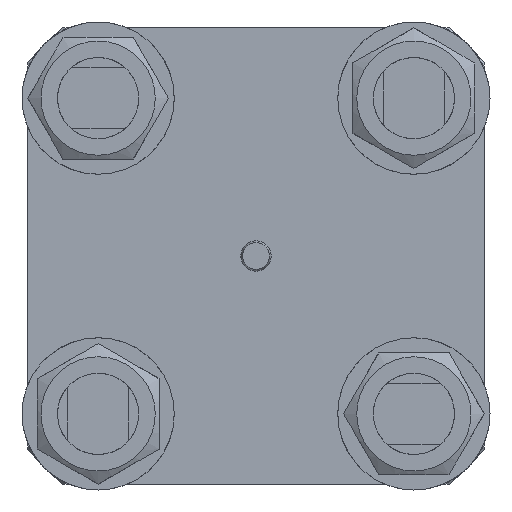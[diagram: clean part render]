
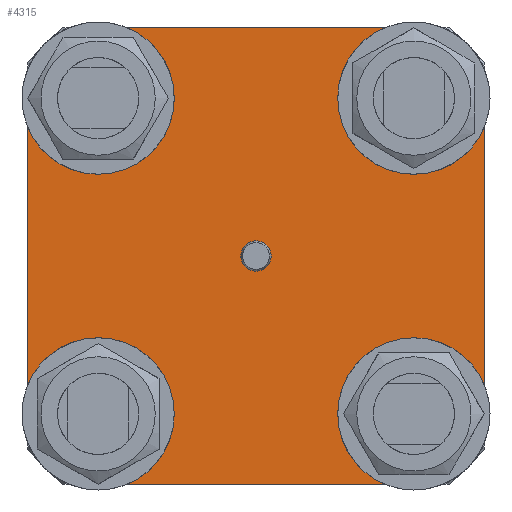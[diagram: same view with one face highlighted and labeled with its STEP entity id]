
A CAD part, left-side view. The second image highlights one B-rep face of the part: STEP entity #4315.
In plain terms, the highlighted planar face has unit normal (-1, 0, 0).
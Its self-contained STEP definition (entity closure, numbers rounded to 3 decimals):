
#54=FACE_BOUND('',#1336,.T.);
#423=LINE('',#7314,#702);
#424=LINE('',#7315,#703);
#425=LINE('',#7316,#704);
#426=LINE('',#7317,#705);
#702=VECTOR('',#5830,10.);
#703=VECTOR('',#5831,10.);
#704=VECTOR('',#5832,10.);
#705=VECTOR('',#5833,10.);
#1048=FACE_OUTER_BOUND('',#1335,.T.);
#1335=EDGE_LOOP('',(#3586,#3587,#3588,#3589,#3590,#3591,#3592,#3593,#3594,
#3595,#3596,#3597));
#1336=EDGE_LOOP('',(#3598));
#1546=CIRCLE('',#4634,3.);
#1561=CIRCLE('',#4683,15.);
#1564=CIRCLE('',#4686,15.);
#1572=CIRCLE('',#4701,15.);
#1575=CIRCLE('',#4704,15.);
#1583=CIRCLE('',#4719,15.);
#1586=CIRCLE('',#4722,15.);
#1596=CIRCLE('',#4748,15.);
#1599=CIRCLE('',#4751,15.);
#1872=VERTEX_POINT('',#6834);
#1920=VERTEX_POINT('',#7059);
#1924=VERTEX_POINT('',#7068);
#1925=VERTEX_POINT('',#7072);
#1930=VERTEX_POINT('',#7092);
#1934=VERTEX_POINT('',#7101);
#1935=VERTEX_POINT('',#7105);
#1940=VERTEX_POINT('',#7125);
#1944=VERTEX_POINT('',#7134);
#1945=VERTEX_POINT('',#7138);
#1964=VERTEX_POINT('',#7227);
#1968=VERTEX_POINT('',#7236);
#1969=VERTEX_POINT('',#7240);
#2377=EDGE_CURVE('',#1872,#1872,#1546,.T.);
#2456=EDGE_CURVE('',#1920,#1925,#1561,.T.);
#2459=EDGE_CURVE('',#1925,#1924,#1564,.T.);
#2472=EDGE_CURVE('',#1930,#1935,#1572,.T.);
#2475=EDGE_CURVE('',#1935,#1934,#1575,.T.);
#2488=EDGE_CURVE('',#1940,#1945,#1583,.T.);
#2491=EDGE_CURVE('',#1945,#1944,#1586,.T.);
#2526=EDGE_CURVE('',#1964,#1969,#1596,.T.);
#2529=EDGE_CURVE('',#1969,#1968,#1599,.T.);
#2552=EDGE_CURVE('',#1924,#1964,#423,.T.);
#2553=EDGE_CURVE('',#1968,#1940,#424,.T.);
#2554=EDGE_CURVE('',#1944,#1930,#425,.T.);
#2555=EDGE_CURVE('',#1934,#1920,#426,.T.);
#3586=ORIENTED_EDGE('',*,*,#2456,.T.);
#3587=ORIENTED_EDGE('',*,*,#2459,.T.);
#3588=ORIENTED_EDGE('',*,*,#2552,.T.);
#3589=ORIENTED_EDGE('',*,*,#2526,.T.);
#3590=ORIENTED_EDGE('',*,*,#2529,.T.);
#3591=ORIENTED_EDGE('',*,*,#2553,.T.);
#3592=ORIENTED_EDGE('',*,*,#2488,.T.);
#3593=ORIENTED_EDGE('',*,*,#2491,.T.);
#3594=ORIENTED_EDGE('',*,*,#2554,.T.);
#3595=ORIENTED_EDGE('',*,*,#2472,.T.);
#3596=ORIENTED_EDGE('',*,*,#2475,.T.);
#3597=ORIENTED_EDGE('',*,*,#2555,.T.);
#3598=ORIENTED_EDGE('',*,*,#2377,.T.);
#4128=PLANE('',#4766);
#4315=ADVANCED_FACE('',(#1048,#54),#4128,.T.);
#4634=AXIS2_PLACEMENT_3D('',#6835,#5505,#5506);
#4683=AXIS2_PLACEMENT_3D('',#7073,#5631,#5632);
#4686=AXIS2_PLACEMENT_3D('',#7076,#5637,#5638);
#4701=AXIS2_PLACEMENT_3D('',#7106,#5672,#5673);
#4704=AXIS2_PLACEMENT_3D('',#7109,#5678,#5679);
#4719=AXIS2_PLACEMENT_3D('',#7139,#5713,#5714);
#4722=AXIS2_PLACEMENT_3D('',#7142,#5719,#5720);
#4748=AXIS2_PLACEMENT_3D('',#7241,#5784,#5785);
#4751=AXIS2_PLACEMENT_3D('',#7244,#5790,#5791);
#4766=AXIS2_PLACEMENT_3D('',#7313,#5828,#5829);
#5505=DIRECTION('center_axis',(1.,0.,0.));
#5506=DIRECTION('ref_axis',(0.,0.,-1.));
#5631=DIRECTION('center_axis',(1.,0.,0.));
#5632=DIRECTION('ref_axis',(0.,0.,
1.));
#5637=DIRECTION('center_axis',(1.,0.,0.));
#5638=DIRECTION('ref_axis',(0.,0.,
1.));
#5672=DIRECTION('center_axis',(1.,0.,0.));
#5673=DIRECTION('ref_axis',(0.,-1.,0.));
#5678=DIRECTION('center_axis',(1.,0.,0.));
#5679=DIRECTION('ref_axis',(0.,-1.,0.));
#5713=DIRECTION('center_axis',(1.,0.,0.));
#5714=DIRECTION('ref_axis',(0.,0.,-1.));
#5719=DIRECTION('center_axis',(1.,0.,0.));
#5720=DIRECTION('ref_axis',(0.,0.,-1.));
#5784=DIRECTION('center_axis',(1.,0.,0.));
#5785=DIRECTION('ref_axis',(0.,1.,0.));
#5790=DIRECTION('center_axis',(1.,0.,0.));
#5791=DIRECTION('ref_axis',(0.,1.,0.));
#5828=DIRECTION('center_axis',(-1.,0.,0.));
#5829=DIRECTION('ref_axis',(0.,-1.,0.));
#5830=DIRECTION('',(0.,0.,-1.));
#5831=DIRECTION('',(0.,-1.,0.));
#5832=DIRECTION('',(0.,0.,1.));
#5833=DIRECTION('',(0.,1.,0.));
#6834=CARTESIAN_POINT('',(-159.832,0.,3.));
#6835=CARTESIAN_POINT('Origin',(-159.832,0.,
0.));
#7059=CARTESIAN_POINT('',(-159.832,25.443,45.));
#7068=CARTESIAN_POINT('',(-159.832,45.,25.443));
#7072=CARTESIAN_POINT('',(-159.832,31.113,16.113));
#7073=CARTESIAN_POINT('Origin',(-159.832,31.113,31.113));
#7076=CARTESIAN_POINT('Origin',(-159.832,31.113,31.113));
#7092=CARTESIAN_POINT('',(-159.832,-45.,25.443));
#7101=CARTESIAN_POINT('',(-159.832,-25.443,45.));
#7105=CARTESIAN_POINT('',(-159.832,-16.113,31.113));
#7106=CARTESIAN_POINT('Origin',(-159.832,-31.113,31.113));
#7109=CARTESIAN_POINT('Origin',(-159.832,-31.113,31.113));
#7125=CARTESIAN_POINT('',(-159.832,-25.443,-45.));
#7134=CARTESIAN_POINT('',(-159.832,-45.,-25.443));
#7138=CARTESIAN_POINT('',(-159.832,-31.113,-16.113));
#7139=CARTESIAN_POINT('Origin',(-159.832,-31.113,-31.113));
#7142=CARTESIAN_POINT('Origin',(-159.832,-31.113,-31.113));
#7227=CARTESIAN_POINT('',(-159.832,45.,-25.443));
#7236=CARTESIAN_POINT('',(-159.832,25.443,-45.));
#7240=CARTESIAN_POINT('',(-159.832,16.113,-31.113));
#7241=CARTESIAN_POINT('Origin',(-159.832,31.113,-31.113));
#7244=CARTESIAN_POINT('Origin',(-159.832,31.113,-31.113));
#7313=CARTESIAN_POINT('Origin',(-159.832,0.,
3.1));
#7314=CARTESIAN_POINT('',(-159.832,45.,21.393));
#7315=CARTESIAN_POINT('',(-159.832,19.843,-45.));
#7316=CARTESIAN_POINT('',(-159.832,-45.,-18.293));
#7317=CARTESIAN_POINT('',(-159.832,-19.843,45.));
